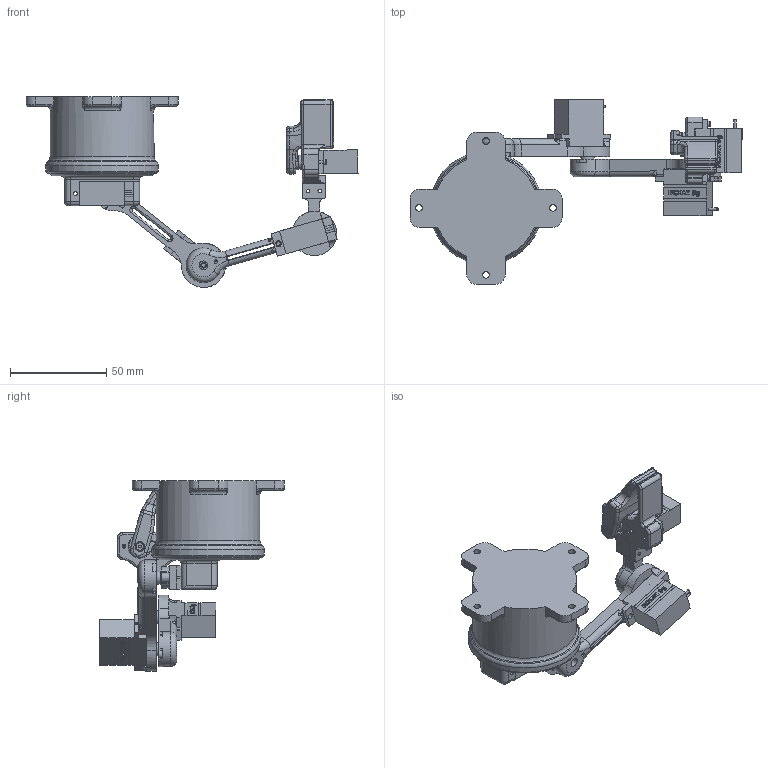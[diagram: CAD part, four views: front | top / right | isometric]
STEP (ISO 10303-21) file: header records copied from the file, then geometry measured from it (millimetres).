
FILE_DESCRIPTION(/* description */ ('','CAx-IF Rec.Pracs.---Representation and Presentation of Product Manufacturing Information (PMI)---4.0---2014-10-13'),/* implementation_level */ '2;1');
FILE_NAME(/* name */ 'braccio_robot_mini_RCXAZ_9g_v2.stp',/* time_stamp */ '2026-04-11T20:57:59+02:00',/* author */ ('R5800u'),/* organization */ (''),/* preprocessor_version */ 'ST-DEVELOPER v20',/* originating_system */ 'Autodesk Inventor 2025',/* authorisation */ '');
FILE_SCHEMA (('AP242_MANAGED_MODEL_BASED_3D_ENGINEERING_MIM_LF { 1 0 10303 442 1 1 4 }'));
Length unit declared in the file: millimetre
Products named in the file (15): braccio_robot_mini_RCXAZ_9g_v2; base_cilindro; base; braccio_RCXAZ_9g_v2; braccio_RCXAZ_9g_v2_1; braccio_1; MG90S ARM doppio; braccio_3; Assieme_blocco_pinza; blocco_pinza_eco_orizzontale_b; dito_pinza_mg90s; ANSI B18.3.1M - M1,6x0,35 x 8, FSHCSM; MG90_ldb_v2; RCXAZ_9g singolo; Vite a testa cilindrica incassata esalobulare ISO 14580 - M2x8-4.8
Assembly tree (23 placements, depth 3):
  braccio_robot_mini_RCXAZ_9g_v2
    base_cilindro
    MG90_ldb_v2  x2
    MG90S ARM doppio  x2
    base
    braccio_RCXAZ_9g_v2
      MG90_ldb_v2
      braccio_1
      MG90S ARM doppio
    braccio_RCXAZ_9g_v2_1
      MG90_ldb_v2
      braccio_1
      MG90S ARM doppio
    braccio_3
    Assieme_blocco_pinza
      blocco_pinza_eco_orizzontale_b
      dito_pinza_mg90s
      ANSI B18.3.1M - M1,6x0,35 x 8, FSHCSM  x2
      MG90_ldb_v2
      RCXAZ_9g singolo
      Vite a testa cilindrica incassata esalobulare ISO 14580 - M2x8-4.8
Bounding box: 172.48 x 96.05 x 99.12 mm (x, y, z)
Volume: 106023.1 mm3; surface area: 63305.7 mm2
Topology: 25 solids, 25 shells, 3021 faces, 8372 edges, 5483 vertices
Faces by surface type: plane 1825, cylinder 741, bspline 346, torus 91, cone 10, sphere 8
Full cylindrical faces by diameter (mm): 1.167 x15, 1.2 x17, 1.6 x2, 1.8 x12, 1.9 x4, 2 x4, 2.2 x10, 2.7 x1, 2.9 x4, 3 x2, 3.4 x4, 4.5 x2, 4.75 x5, 5 x6, 5.5 x6, 6 x1, 6.8 x4, 7.4 x1, 50 x1, 54 x2, 54.4 x1, 58.4 x1
Entity records: 50894 total; most frequent: CARTESIAN_POINT 13675, DIRECTION 7187, ORIENTED_EDGE 5848, EDGE_CURVE 2924, STYLED_ITEM 2793, AXIS2_PLACEMENT_3D 2685, VERTEX_POINT 1883, LINE 1817
